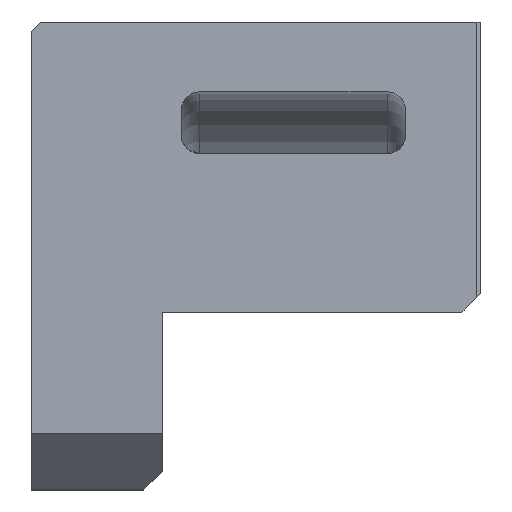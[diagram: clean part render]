
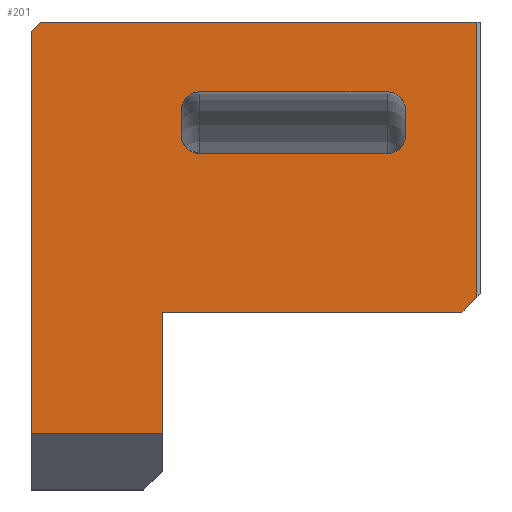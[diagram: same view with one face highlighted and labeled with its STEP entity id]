
A CAD part, front view. The second image highlights one B-rep face of the part: STEP entity #201.
In plain terms, the highlighted planar face has unit normal (0, -1, 0).
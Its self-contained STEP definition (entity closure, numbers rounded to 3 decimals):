
#2 = LINE ( 'NONE', #1035, #3247 ) ;
#27 = CARTESIAN_POINT ( 'NONE',  ( -3., -23.5, 10.77 ) ) ;
#31 = ORIENTED_EDGE ( 'NONE', *, *, #2309, .T. ) ;
#34 = DIRECTION ( 'NONE',  ( 0., 0., 1. ) ) ;
#61 = VERTEX_POINT ( 'NONE', #538 ) ;
#116 = ORIENTED_EDGE ( 'NONE', *, *, #655, .T. ) ;
#151 = CARTESIAN_POINT ( 'NONE',  ( 8., -23.5, 9.47 ) ) ;
#171 = EDGE_CURVE ( 'NONE', #2438, #1495, #1879, .T. ) ;
#190 = ORIENTED_EDGE ( 'NONE', *, *, #3084, .T. ) ;
#201 = ADVANCED_FACE ( 'NONE', ( #2643, #834 ), #503, .F. ) ;
#205 = EDGE_CURVE ( 'NONE', #600, #2998, #2999, .T. ) ;
#212 = VERTEX_POINT ( 'NONE', #151 ) ;
#244 = CARTESIAN_POINT ( 'NONE',  ( -4., -23.5, 9.47 ) ) ;
#247 = DIRECTION ( 'NONE',  ( 1., 0., 0. ) ) ;
#259 = EDGE_LOOP ( 'NONE', ( #2574, #2277, #31, #398, #286, #2583, #2570, #1340 ) ) ;
#271 = CARTESIAN_POINT ( 'NONE',  ( 7., -23.5, 8.47 ) ) ;
#283 = CARTESIAN_POINT ( 'NONE',  ( 11.8, -23.5, 15.5 ) ) ;
#286 = ORIENTED_EDGE ( 'NONE', *, *, #1349, .T. ) ;
#292 = CARTESIAN_POINT ( 'NONE',  ( -12., -23.5, -6.5 ) ) ;
#300 = ORIENTED_EDGE ( 'NONE', *, *, #861, .T. ) ;
#332 = VERTEX_POINT ( 'NONE', #2210 ) ;
#339 = DIRECTION ( 'NONE',  ( 0., 0., 1. ) ) ;
#366 = DIRECTION ( 'NONE',  ( 0., 0., 1. ) ) ;
#367 = VECTOR ( 'NONE', #3187, 1000. ) ;
#370 = CARTESIAN_POINT ( 'NONE',  ( -12., -23.5, 15.5 ) ) ;
#398 = ORIENTED_EDGE ( 'NONE', *, *, #171, .F. ) ;
#460 = CARTESIAN_POINT ( 'NONE',  ( -4., -23.5, 11.77 ) ) ;
#493 = EDGE_CURVE ( 'NONE', #2998, #1521, #2, .T. ) ;
#503 = PLANE ( 'NONE',  #3242 ) ;
#538 = CARTESIAN_POINT ( 'NONE',  ( 11., -23.5, 0. ) ) ;
#557 = CARTESIAN_POINT ( 'NONE',  ( 7., -23.5, 11.77 ) ) ;
#583 = AXIS2_PLACEMENT_3D ( 'NONE', #602, #1645, #366 ) ;
#600 = VERTEX_POINT ( 'NONE', #1100 ) ;
#602 = CARTESIAN_POINT ( 'NONE',  ( 7., -23.5, 10.77 ) ) ;
#655 = EDGE_CURVE ( 'NONE', #1474, #1376, #2768, .T. ) ;
#708 = DIRECTION ( 'NONE',  ( 0.707, 0., 0.707 ) ) ;
#739 = CIRCLE ( 'NONE', #583, 1. ) ;
#755 = EDGE_CURVE ( 'NONE', #2778, #212, #1194, .T. ) ;
#794 = AXIS2_PLACEMENT_3D ( 'NONE', #840, #2942, #1652 ) ;
#834 = FACE_OUTER_BOUND ( 'NONE', #259, .T. ) ;
#840 = CARTESIAN_POINT ( 'NONE',  ( 7., -23.5, 9.47 ) ) ;
#851 = VECTOR ( 'NONE', #1259, 1000. ) ;
#861 = EDGE_CURVE ( 'NONE', #2592, #2778, #739, .T. ) ;
#924 = EDGE_CURVE ( 'NONE', #957, #2592, #937, .T. ) ;
#937 = LINE ( 'NONE', #460, #2113 ) ;
#942 = VERTEX_POINT ( 'NONE', #1747 ) ;
#957 = VERTEX_POINT ( 'NONE', #2046 ) ;
#961 = CARTESIAN_POINT ( 'NONE',  ( -12., -23.5, 0. ) ) ;
#972 = VECTOR ( 'NONE', #2258, 1000. ) ;
#985 = CARTESIAN_POINT ( 'NONE',  ( -3., -23.5, 8.47 ) ) ;
#989 = LINE ( 'NONE', #2042, #972 ) ;
#1012 = CIRCLE ( 'NONE', #794, 1. ) ;
#1029 = CARTESIAN_POINT ( 'NONE',  ( -4., -23.5, 11.77 ) ) ;
#1035 = CARTESIAN_POINT ( 'NONE',  ( -5., -23.5, -6.5 ) ) ;
#1047 = AXIS2_PLACEMENT_3D ( 'NONE', #27, #1055, #339 ) ;
#1055 = DIRECTION ( 'NONE',  ( 0., 1., 0. ) ) ;
#1062 = VECTOR ( 'NONE', #2987, 1000. ) ;
#1079 = DIRECTION ( 'NONE',  ( 0., 0., -1. ) ) ;
#1100 = CARTESIAN_POINT ( 'NONE',  ( -12., -23.5, 15. ) ) ;
#1108 = VERTEX_POINT ( 'NONE', #2141 ) ;
#1194 = LINE ( 'NONE', #1745, #1062 ) ;
#1215 = VERTEX_POINT ( 'NONE', #271 ) ;
#1222 = LINE ( 'NONE', #961, #1895 ) ;
#1244 = VECTOR ( 'NONE', #2296, 1000. ) ;
#1259 = DIRECTION ( 'NONE',  ( 0., 0., 1. ) ) ;
#1300 = LINE ( 'NONE', #3122, #2838 ) ;
#1303 = LINE ( 'NONE', #2387, #1244 ) ;
#1305 = EDGE_CURVE ( 'NONE', #1521, #1108, #2554, .T. ) ;
#1340 = ORIENTED_EDGE ( 'NONE', *, *, #1305, .T. ) ;
#1349 = EDGE_CURVE ( 'NONE', #2438, #600, #1303, .T. ) ;
#1376 = VERTEX_POINT ( 'NONE', #244 ) ;
#1405 = VECTOR ( 'NONE', #1079, 1000. ) ;
#1474 = VERTEX_POINT ( 'NONE', #985 ) ;
#1495 = VERTEX_POINT ( 'NONE', #283 ) ;
#1521 = VERTEX_POINT ( 'NONE', #1796 ) ;
#1542 = CARTESIAN_POINT ( 'NONE',  ( -12., -23.5, 15.5 ) ) ;
#1544 = LINE ( 'NONE', #1029, #1405 ) ;
#1645 = DIRECTION ( 'NONE',  ( 0., 1., 0. ) ) ;
#1652 = DIRECTION ( 'NONE',  ( 0., 0., 1. ) ) ;
#1745 = CARTESIAN_POINT ( 'NONE',  ( 8., -23.5, 11.77 ) ) ;
#1747 = CARTESIAN_POINT ( 'NONE',  ( -4., -23.5, 10.77 ) ) ;
#1796 = CARTESIAN_POINT ( 'NONE',  ( -5., -23.5, -6.5 ) ) ;
#1821 = CARTESIAN_POINT ( 'NONE',  ( -5., -23.5, 0. ) ) ;
#1879 = LINE ( 'NONE', #2143, #3079 ) ;
#1895 = VECTOR ( 'NONE', #2481, 1000. ) ;
#1928 = CIRCLE ( 'NONE', #1047, 1. ) ;
#1970 = EDGE_CURVE ( 'NONE', #61, #332, #2247, .T. ) ;
#1979 = CARTESIAN_POINT ( 'NONE',  ( 8., -23.5, 10.77 ) ) ;
#2002 = ORIENTED_EDGE ( 'NONE', *, *, #2629, .T. ) ;
#2035 = EDGE_CURVE ( 'NONE', #942, #1376, #1544, .T. ) ;
#2042 = CARTESIAN_POINT ( 'NONE',  ( 11.8, -23.5, 15.5 ) ) ;
#2046 = CARTESIAN_POINT ( 'NONE',  ( -3., -23.5, 11.77 ) ) ;
#2113 = VECTOR ( 'NONE', #3009, 1000. ) ;
#2141 = CARTESIAN_POINT ( 'NONE',  ( -5., -23.5, 0. ) ) ;
#2143 = CARTESIAN_POINT ( 'NONE',  ( -12., -23.5, 15.5 ) ) ;
#2204 = EDGE_LOOP ( 'NONE', ( #2535, #116, #2399, #190, #2641, #300, #2494, #2002 ) ) ;
#2206 = CARTESIAN_POINT ( 'NONE',  ( -11.5, -23.5, 15.5 ) ) ;
#2210 = CARTESIAN_POINT ( 'NONE',  ( 11.8, -23.5, 0.8 ) ) ;
#2222 = AXIS2_PLACEMENT_3D ( 'NONE', #2893, #2358, #34 ) ;
#2228 = DIRECTION ( 'NONE',  ( 0., 0., 1. ) ) ;
#2247 = LINE ( 'NONE', #3051, #2776 ) ;
#2258 = DIRECTION ( 'NONE',  ( 0., 0., 1. ) ) ;
#2277 = ORIENTED_EDGE ( 'NONE', *, *, #1970, .T. ) ;
#2296 = DIRECTION ( 'NONE',  ( -0.707, 0., -0.707 ) ) ;
#2309 = EDGE_CURVE ( 'NONE', #332, #1495, #989, .T. ) ;
#2358 = DIRECTION ( 'NONE',  ( 0., 1., 0. ) ) ;
#2387 = CARTESIAN_POINT ( 'NONE',  ( -11.5, -23.5, 15.5 ) ) ;
#2399 = ORIENTED_EDGE ( 'NONE', *, *, #2035, .F. ) ;
#2438 = VERTEX_POINT ( 'NONE', #2206 ) ;
#2481 = DIRECTION ( 'NONE',  ( 1., 0., 0. ) ) ;
#2494 = ORIENTED_EDGE ( 'NONE', *, *, #755, .T. ) ;
#2535 = ORIENTED_EDGE ( 'NONE', *, *, #2856, .F. ) ;
#2548 = DIRECTION ( 'NONE',  ( 1., 0., 0. ) ) ;
#2554 = LINE ( 'NONE', #1821, #851 ) ;
#2570 = ORIENTED_EDGE ( 'NONE', *, *, #493, .T. ) ;
#2574 = ORIENTED_EDGE ( 'NONE', *, *, #2758, .T. ) ;
#2578 = DIRECTION ( 'NONE',  ( 0., 1., 0. ) ) ;
#2583 = ORIENTED_EDGE ( 'NONE', *, *, #205, .T. ) ;
#2592 = VERTEX_POINT ( 'NONE', #557 ) ;
#2629 = EDGE_CURVE ( 'NONE', #212, #1215, #1012, .T. ) ;
#2641 = ORIENTED_EDGE ( 'NONE', *, *, #924, .T. ) ;
#2643 = FACE_BOUND ( 'NONE', #2204, .T. ) ;
#2758 = EDGE_CURVE ( 'NONE', #1108, #61, #1222, .T. ) ;
#2768 = CIRCLE ( 'NONE', #2222, 1. ) ;
#2776 = VECTOR ( 'NONE', #708, 1000. ) ;
#2778 = VERTEX_POINT ( 'NONE', #1979 ) ;
#2838 = VECTOR ( 'NONE', #2548, 1000. ) ;
#2856 = EDGE_CURVE ( 'NONE', #1474, #1215, #1300, .T. ) ;
#2884 = DIRECTION ( 'NONE',  ( 1., 0., 0. ) ) ;
#2893 = CARTESIAN_POINT ( 'NONE',  ( -3., -23.5, 9.47 ) ) ;
#2942 = DIRECTION ( 'NONE',  ( 0., 1., 0. ) ) ;
#2987 = DIRECTION ( 'NONE',  ( 0., 0., -1. ) ) ;
#2998 = VERTEX_POINT ( 'NONE', #292 ) ;
#2999 = LINE ( 'NONE', #370, #367 ) ;
#3009 = DIRECTION ( 'NONE',  ( 1., 0., 0. ) ) ;
#3051 = CARTESIAN_POINT ( 'NONE',  ( 12., -23.5, 1. ) ) ;
#3079 = VECTOR ( 'NONE', #2884, 1000. ) ;
#3084 = EDGE_CURVE ( 'NONE', #942, #957, #1928, .T. ) ;
#3122 = CARTESIAN_POINT ( 'NONE',  ( -4., -23.5, 8.47 ) ) ;
#3187 = DIRECTION ( 'NONE',  ( 0., 0., -1. ) ) ;
#3242 = AXIS2_PLACEMENT_3D ( 'NONE', #1542, #2578, #2228 ) ;
#3247 = VECTOR ( 'NONE', #247, 1000. ) ;
